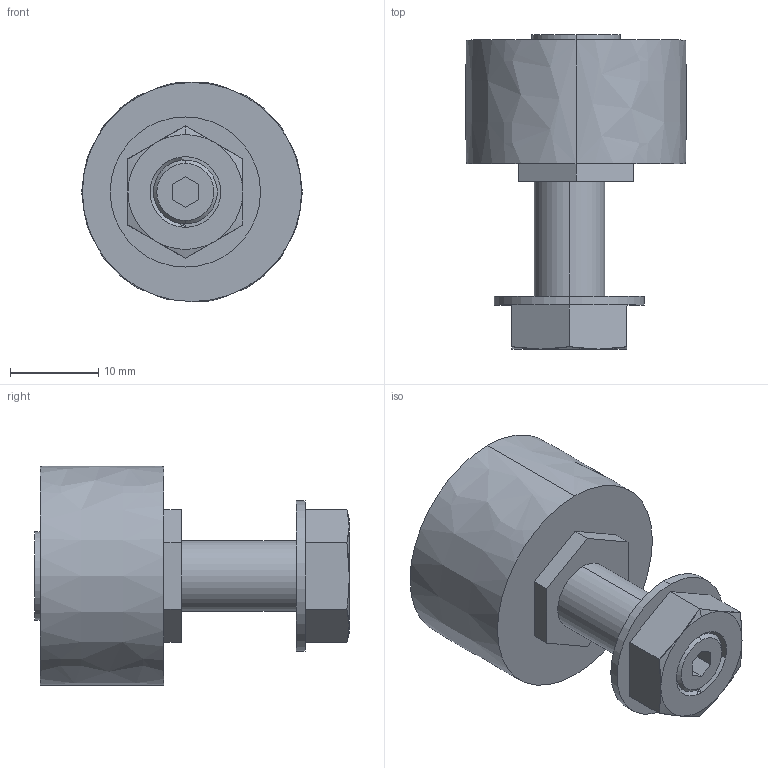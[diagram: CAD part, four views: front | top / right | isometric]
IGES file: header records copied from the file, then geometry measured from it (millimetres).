
Start section: 3D InterOp IGES (v. 2019 1.0.2), Spatial Corp. Copyright (c) 1999-2017.
Global section: file name: LR 25 E.igs; native system: Spatial Corp.; preprocessor: 3D InterOp GENERIC/IGES 3.0; author: Noname; organization: Noname; date: 20220628.172231; units: millimetre
Bounding box: 24.98 x 35.6 x 24.8 mm (x, y, z)
Surface area: 3185.1 mm2 (no closed solid volume)
Topology: 0 solids, 0 shells, 53 faces, 244 edges, 244 vertices
Faces by surface type: extrusion 34, revolution 17, bspline 2
